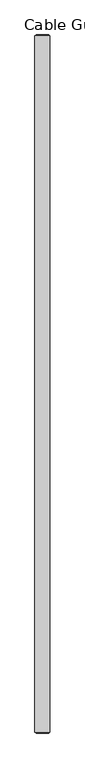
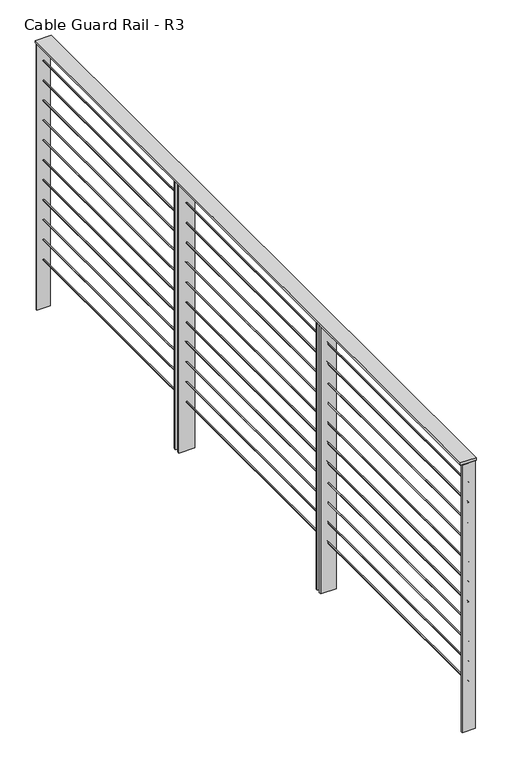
"""IFC4 building model written with IfcOpenShell, lengths in millimetres: railing geometry, Cable Guard Rail - R3."""

from ifc_helpers import new_model, si_unit, point, frame, frame_2d, origin, place, context, project, spatial, polyline, circle_curve, trimmed, segment, composite_curve, outline, extrude, source, transform, mapped, element, save


def cable_guard_rail_r3_d2870440(model_context):
    return source(origin(), model_context, "Body", "SweptSolid", [
        extrude(outline(polyline([(25561.9728313, 230498.4703252), (25638.1728313, 230498.4703252), (25638.1728313, 226941.3248259), (25561.9728313, 226941.3248259), (25561.9728313, 230498.4703252)])), frame((0.0, 0.0, 293590.1333333), z_axis=(0.0, 0.0, 1.0), x_axis=(1.0, 0.0, 0.0)), (0.0, 0.0, 1.0), 12.7),
        extrude(outline(composite_curve([segment(trimmed(circle_curve(frame_2d((293488.5333333, 25600.0728313)), 3.175), [point((293488.5333333, 25596.8978313))], [point((293488.5333333, 25603.2478313))], False, "CARTESIAN"), True, "CONTINUOUS"), segment(trimmed(circle_curve(frame_2d((293488.5333333, 25600.0728313)), 3.175), [point((293488.5333333, 25603.2478313))], [point((293488.5333333, 25596.8978313))], False, "CARTESIAN"), True, "CONTINUOUS")], self_intersect=False)), frame((0.0, 226941.3248259, 0.0), z_axis=(0.0, 1.0, 0.0), x_axis=(0.0, 0.0, 1.0)), (0.0, 0.0, 1.0), 3557.1454993),
        extrude(outline(composite_curve([segment(trimmed(circle_curve(frame_2d((293386.9333333, 25600.0728313)), 3.175), [point((293386.9333333, 25596.8978313))], [point((293386.9333333, 25603.2478313))], False, "CARTESIAN"), True, "CONTINUOUS"), segment(trimmed(circle_curve(frame_2d((293386.9333333, 25600.0728313)), 3.175), [point((293386.9333333, 25603.2478313))], [point((293386.9333333, 25596.8978313))], False, "CARTESIAN"), True, "CONTINUOUS")], self_intersect=False)), frame((0.0, 226941.3248259, 0.0), z_axis=(0.0, 1.0, 0.0), x_axis=(0.0, 0.0, 1.0)), (0.0, 0.0, 1.0), 3557.1454993),
        extrude(outline(composite_curve([segment(trimmed(circle_curve(frame_2d((293285.3333333, 25600.0728313)), 3.175), [point((293285.3333333, 25596.8978313))], [point((293285.3333333, 25603.2478313))], False, "CARTESIAN"), True, "CONTINUOUS"), segment(trimmed(circle_curve(frame_2d((293285.3333333, 25600.0728313)), 3.175), [point((293285.3333333, 25603.2478313))], [point((293285.3333333, 25596.8978313))], False, "CARTESIAN"), True, "CONTINUOUS")], self_intersect=False)), frame((0.0, 226941.3248259, 0.0), z_axis=(0.0, 1.0, 0.0), x_axis=(0.0, 0.0, 1.0)), (0.0, 0.0, 1.0), 3557.1454993),
        extrude(outline(composite_curve([segment(trimmed(circle_curve(frame_2d((293183.7333333, 25600.0728313)), 3.175), [point((293183.7333333, 25596.8978313))], [point((293183.7333333, 25603.2478313))], False, "CARTESIAN"), True, "CONTINUOUS"), segment(trimmed(circle_curve(frame_2d((293183.7333333, 25600.0728313)), 3.175), [point((293183.7333333, 25603.2478313))], [point((293183.7333333, 25596.8978313))], False, "CARTESIAN"), True, "CONTINUOUS")], self_intersect=False)), frame((0.0, 226941.3248259, 0.0), z_axis=(0.0, 1.0, 0.0), x_axis=(0.0, 0.0, 1.0)), (0.0, 0.0, 1.0), 3557.1454993),
        extrude(outline(composite_curve([segment(trimmed(circle_curve(frame_2d((293082.1333333, 25600.0728313)), 3.175), [point((293082.1333333, 25596.8978313))], [point((293082.1333333, 25603.2478313))], False, "CARTESIAN"), True, "CONTINUOUS"), segment(trimmed(circle_curve(frame_2d((293082.1333333, 25600.0728313)), 3.175), [point((293082.1333333, 25603.2478313))], [point((293082.1333333, 25596.8978313))], False, "CARTESIAN"), True, "CONTINUOUS")], self_intersect=False)), frame((0.0, 226941.3248259, 0.0), z_axis=(0.0, 1.0, 0.0), x_axis=(0.0, 0.0, 1.0)), (0.0, 0.0, 1.0), 3557.1454993),
        extrude(outline(composite_curve([segment(trimmed(circle_curve(frame_2d((292980.5333333, 25600.0728313)), 3.175), [point((292980.5333333, 25596.8978313))], [point((292980.5333333, 25603.2478313))], False, "CARTESIAN"), True, "CONTINUOUS"), segment(trimmed(circle_curve(frame_2d((292980.5333333, 25600.0728313)), 3.175), [point((292980.5333333, 25603.2478313))], [point((292980.5333333, 25596.8978313))], False, "CARTESIAN"), True, "CONTINUOUS")], self_intersect=False)), frame((0.0, 226941.3248259, 0.0), z_axis=(0.0, 1.0, 0.0), x_axis=(0.0, 0.0, 1.0)), (0.0, 0.0, 1.0), 3557.1454993),
        extrude(outline(composite_curve([segment(trimmed(circle_curve(frame_2d((292878.9333333, 25600.0728313)), 3.175), [point((292878.9333333, 25596.8978313))], [point((292878.9333333, 25603.2478313))], False, "CARTESIAN"), True, "CONTINUOUS"), segment(trimmed(circle_curve(frame_2d((292878.9333333, 25600.0728313)), 3.175), [point((292878.9333333, 25603.2478313))], [point((292878.9333333, 25596.8978313))], False, "CARTESIAN"), True, "CONTINUOUS")], self_intersect=False)), frame((0.0, 226941.3248259, 0.0), z_axis=(0.0, 1.0, 0.0), x_axis=(0.0, 0.0, 1.0)), (0.0, 0.0, 1.0), 3557.1454993),
        extrude(outline(composite_curve([segment(trimmed(circle_curve(frame_2d((292777.3333333, 25600.0728313)), 3.175), [point((292777.3333333, 25596.8978313))], [point((292777.3333333, 25603.2478313))], False, "CARTESIAN"), True, "CONTINUOUS"), segment(trimmed(circle_curve(frame_2d((292777.3333333, 25600.0728313)), 3.175), [point((292777.3333333, 25603.2478313))], [point((292777.3333333, 25596.8978313))], False, "CARTESIAN"), True, "CONTINUOUS")], self_intersect=False)), frame((0.0, 226941.3248259, 0.0), z_axis=(0.0, 1.0, 0.0), x_axis=(0.0, 0.0, 1.0)), (0.0, 0.0, 1.0), 3557.1454993),
        extrude(outline(composite_curve([segment(trimmed(circle_curve(frame_2d((292675.7333333, 25600.0728313)), 3.175), [point((292675.7333333, 25596.8978313))], [point((292675.7333333, 25603.2478313))], False, "CARTESIAN"), True, "CONTINUOUS"), segment(trimmed(circle_curve(frame_2d((292675.7333333, 25600.0728313)), 3.175), [point((292675.7333333, 25603.2478313))], [point((292675.7333333, 25596.8978313))], False, "CARTESIAN"), True, "CONTINUOUS")], self_intersect=False)), frame((0.0, 226941.3248259, 0.0), z_axis=(0.0, 1.0, 0.0), x_axis=(0.0, 0.0, 1.0)), (0.0, 0.0, 1.0), 3557.1454993),
        extrude(outline(composite_curve([segment(trimmed(circle_curve(frame_2d((292574.1333333, 25600.0728313)), 3.175), [point((292574.1333333, 25596.8978313))], [point((292574.1333333, 25603.2478313))], False, "CARTESIAN"), True, "CONTINUOUS"), segment(trimmed(circle_curve(frame_2d((292574.1333333, 25600.0728313)), 3.175), [point((292574.1333333, 25603.2478313))], [point((292574.1333333, 25596.8978313))], False, "CARTESIAN"), True, "CONTINUOUS")], self_intersect=False)), frame((0.0, 226941.3248259, 0.0), z_axis=(0.0, 1.0, 0.0), x_axis=(0.0, 0.0, 1.0)), (0.0, 0.0, 1.0), 3557.1454993),
        extrude(outline(composite_curve([segment(trimmed(circle_curve(frame_2d((292472.5333333, 25600.0728313)), 3.175), [point((292472.5333333, 25596.8978313))], [point((292472.5333333, 25603.2478313))], False, "CARTESIAN"), True, "CONTINUOUS"), segment(trimmed(circle_curve(frame_2d((292472.5333333, 25600.0728313)), 3.175), [point((292472.5333333, 25603.2478313))], [point((292472.5333333, 25596.8978313))], False, "CARTESIAN"), True, "CONTINUOUS")], self_intersect=False)), frame((0.0, 226941.3248259, 0.0), z_axis=(0.0, 1.0, 0.0), x_axis=(0.0, 0.0, 1.0)), (0.0, 0.0, 1.0), 3557.1454993),
        extrude(outline(polyline([(25561.9728313, 228149.2649923), (25638.1728313, 228149.2649923), (25638.1728313, 228139.7399923), (25561.9728313, 228139.7399923), (25561.9728313, 228149.2649923)])), frame((0.0, 0.0, 292224.8833333), z_axis=(0.0, 0.0, 1.0), x_axis=(1.0, 0.0, 0.0)), (0.0, 0.0, 1.0), 1365.25),
        extrude(outline(polyline([(25561.9728313, 228120.6899923), (25638.1728313, 228120.6899923), (25638.1728313, 228111.2132277), (25561.9728313, 228111.2132277), (25561.9728313, 228120.6899923)])), frame((0.0, 0.0, 292224.8833333), z_axis=(0.0, 0.0, 1.0), x_axis=(1.0, 0.0, 0.0)), (0.0, 0.0, 1.0), 1365.25),
        extrude(outline(polyline([(25561.9728313, 229334.9801587), (25638.1728313, 229334.9801587), (25638.1728313, 229325.4551587), (25561.9728313, 229325.4551587), (25561.9728313, 229334.9801587)])), frame((0.0, 0.0, 292224.8833333), z_axis=(0.0, 0.0, 1.0), x_axis=(1.0, 0.0, 0.0)), (0.0, 0.0, 1.0), 1365.25),
        extrude(outline(polyline([(25561.9728313, 229306.4051587), (25638.1728313, 229306.4051587), (25638.1728313, 229296.9283941), (25561.9728313, 229296.9283941), (25561.9728313, 229306.4051587)])), frame((0.0, 0.0, 292224.8833333), z_axis=(0.0, 0.0, 1.0), x_axis=(1.0, 0.0, 0.0)), (0.0, 0.0, 1.0), 1365.25),
        extrude(outline(polyline([(25568.3228313, 226944.4998259), (25631.8228313, 226944.4998259), (25631.8228313, 226938.1498259), (25568.3228313, 226938.1498259), (25568.3228313, 226944.4998259)])), frame((0.0, 0.0, 292224.8833333), z_axis=(0.0, 0.0, 1.0), x_axis=(1.0, 0.0, 0.0)), (0.0, 0.0, 1.0), 1365.25),
        extrude(outline(polyline([(25568.3228313, 230501.6453252), (25631.8228313, 230501.6453252), (25631.8228313, 230495.2953252), (25568.3228313, 230495.2953252), (25568.3228313, 230501.6453252)])), frame((0.0, 0.0, 292224.8833333), z_axis=(0.0, 0.0, 1.0), x_axis=(1.0, 0.0, 0.0)), (0.0, 0.0, 1.0), 1365.25),
    ])


if __name__ == "__main__":
    model = new_model("IFC4")
    model_context = context("Model", 3, world=origin())
    ifc_project = project(units=[si_unit("LENGTHUNIT", "METRE", prefix="MILLI")], contexts=[model_context])
    site = spatial("IfcSite", under=ifc_project)
    building = spatial("IfcBuilding", under=site)
    placement = place(None, origin())
    cable_guard_rail_r3_shape = cable_guard_rail_r3_d2870440(model_context)
    element("IfcRailing", 1, ObjectType="Cable Guard Rail - R3", at=placement, inside=building, context=model_context, shape_type="MappedRepresentation", body=[
        mapped(cable_guard_rail_r3_shape, transform((0.0, 0.0, 0.0), x_axis=(1.0, 0.0, 0.0), y_axis=(0.0, 1.0, 0.0), z_axis=(0.0, 0.0, 1.0))),
    ])
    save(model, "model.ifc")
